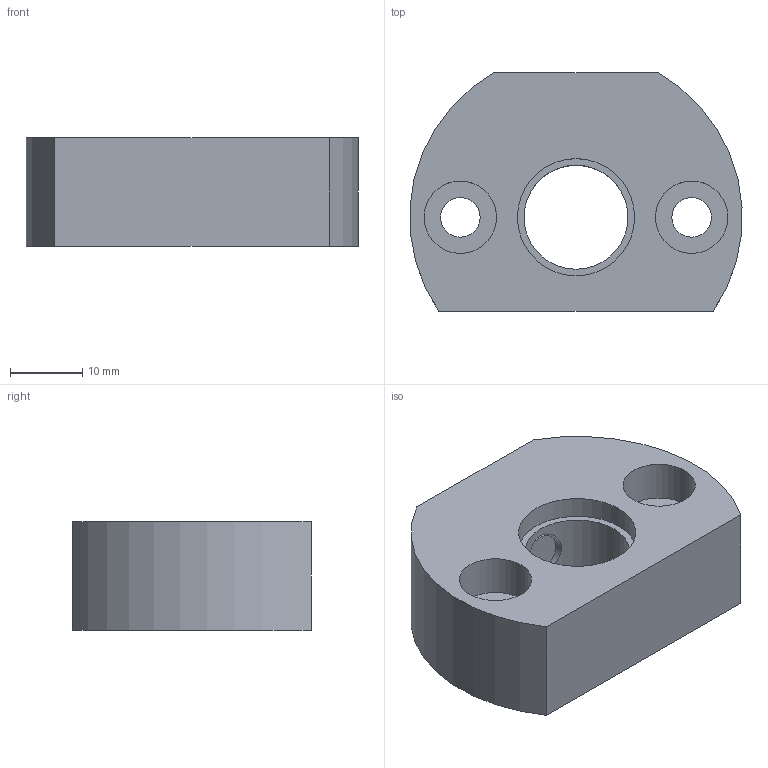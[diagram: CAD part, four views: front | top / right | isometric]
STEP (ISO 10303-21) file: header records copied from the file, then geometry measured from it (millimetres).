
FILE_DESCRIPTION( ( 'STEP AP203' ), '1' );
FILE_NAME( 'C:/Temp/Ganter_Step_05_03_2020/data/3_1/gn612n_1/gn612n_1_a/Stainless steel-Mounting block GN 612.1-M16x1,5-A-NI.stp', '2020-03-12T08:37:12', ( 'License CC BY-ND 4.0' ), ( 'CADENAS' ), ' ', 'PARTsolutions', ' ' );
FILE_SCHEMA( ( 'CONFIG_CONTROL_DESIGN' ) );
Length unit declared in the file: millimetre
Products named in the file (1): _Stainless steel-Mounting block GN 612.1-M16x1,5-A-NI
Bounding box: 45.91 x 33 x 15 mm (x, y, z)
Volume: 16147.6 mm3; surface area: 5869.4 mm2
Topology: 1 solids, 1 shells, 31 faces, 64 edges, 42 vertices
Faces by surface type: plane 17, cylinder 11, cone 3
Full cylindrical faces by diameter (mm): 5.5 x2, 6 x1, 6.647 x2, 10 x2, 14.376 x1, 16.2 x1
Entity records: 876 total; most frequent: CARTESIAN_POINT 189, DIRECTION 138, ORIENTED_EDGE 102, AXIS2_PLACEMENT_3D 56, EDGE_LOOP 56, EDGE_CURVE 51, VERTEX_POINT 41, FACE_OUTER_BOUND 40
